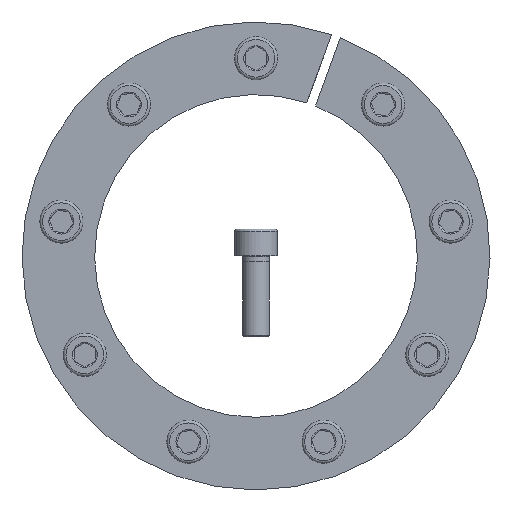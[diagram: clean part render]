
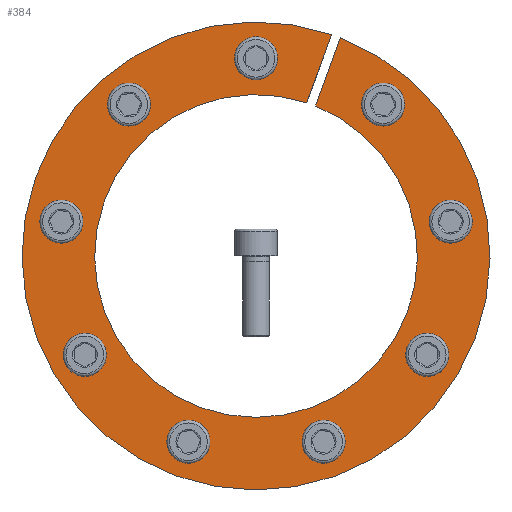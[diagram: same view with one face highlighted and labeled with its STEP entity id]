
A CAD part, front view. The second image highlights one B-rep face of the part: STEP entity #384.
In plain terms, the highlighted planar face has unit normal (0, -1, 0).
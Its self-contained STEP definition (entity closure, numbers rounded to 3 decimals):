
#384 = ADVANCED_FACE( '', ( #596, #597, #598, #599, #600, #601, #602, #603, #604, #605 ), #606, .F. );
#596 = FACE_BOUND( '', #770, .T. );
#597 = FACE_BOUND( '', #771, .T. );
#598 = FACE_BOUND( '', #772, .T. );
#599 = FACE_BOUND( '', #773, .T. );
#600 = FACE_BOUND( '', #774, .T. );
#601 = FACE_BOUND( '', #775, .T. );
#602 = FACE_BOUND( '', #776, .T. );
#603 = FACE_BOUND( '', #777, .T. );
#604 = FACE_BOUND( '', #778, .T. );
#605 = FACE_OUTER_BOUND( '', #779, .T. );
#606 = PLANE( '', #780 );
#770 = EDGE_LOOP( '', ( #983 ) );
#771 = EDGE_LOOP( '', ( #984 ) );
#772 = EDGE_LOOP( '', ( #985 ) );
#773 = EDGE_LOOP( '', ( #986 ) );
#774 = EDGE_LOOP( '', ( #987 ) );
#775 = EDGE_LOOP( '', ( #988 ) );
#776 = EDGE_LOOP( '', ( #989 ) );
#777 = EDGE_LOOP( '', ( #990 ) );
#778 = EDGE_LOOP( '', ( #991 ) );
#779 = EDGE_LOOP( '', ( #992, #993, #994, #995 ) );
#780 = AXIS2_PLACEMENT_3D( '', #996, #997, #998 );
#983 = ORIENTED_EDGE( '', *, *, #1339, .T. );
#984 = ORIENTED_EDGE( '', *, *, #1340, .T. );
#985 = ORIENTED_EDGE( '', *, *, #1341, .T. );
#986 = ORIENTED_EDGE( '', *, *, #1342, .T. );
#987 = ORIENTED_EDGE( '', *, *, #1343, .T. );
#988 = ORIENTED_EDGE( '', *, *, #1344, .T. );
#989 = ORIENTED_EDGE( '', *, *, #1345, .T. );
#990 = ORIENTED_EDGE( '', *, *, #1346, .T. );
#991 = ORIENTED_EDGE( '', *, *, #1347, .T. );
#992 = ORIENTED_EDGE( '', *, *, #1348, .T. );
#993 = ORIENTED_EDGE( '', *, *, #1349, .T. );
#994 = ORIENTED_EDGE( '', *, *, #1331, .T. );
#995 = ORIENTED_EDGE( '', *, *, #1350, .F. );
#996 = CARTESIAN_POINT( '', ( 0., 0., 87. ) );
#997 = DIRECTION( '', ( 0., 1., 0. ) );
#998 = DIRECTION( '', ( 0., 0., 1. ) );
#1331 = EDGE_CURVE( '', #1475, #1473, #1476, .T. );
#1339 = EDGE_CURVE( '', #1489, #1489, #1490, .T. );
#1340 = EDGE_CURVE( '', #1491, #1491, #1492, .T. );
#1341 = EDGE_CURVE( '', #1493, #1493, #1494, .T. );
#1342 = EDGE_CURVE( '', #1495, #1495, #1496, .T. );
#1343 = EDGE_CURVE( '', #1497, #1497, #1498, .T. );
#1344 = EDGE_CURVE( '', #1499, #1499, #1500, .T. );
#1345 = EDGE_CURVE( '', #1501, #1501, #1502, .T. );
#1346 = EDGE_CURVE( '', #1503, #1503, #1504, .T. );
#1347 = EDGE_CURVE( '', #1505, #1505, #1506, .T. );
#1348 = EDGE_CURVE( '', #1507, #1508, #1509, .T. );
#1349 = EDGE_CURVE( '', #1508, #1475, #1510, .T. );
#1350 = EDGE_CURVE( '', #1507, #1473, #1511, .T. );
#1473 = VERTEX_POINT( '', #1597 );
#1475 = VERTEX_POINT( '', #1600 );
#1476 = LINE( '', #1601, #1602 );
#1489 = VERTEX_POINT( '', #1626 );
#1490 = CIRCLE( '', #1627, 5. );
#1491 = VERTEX_POINT( '', #1628 );
#1492 = CIRCLE( '', #1629, 5. );
#1493 = VERTEX_POINT( '', #1630 );
#1494 = CIRCLE( '', #1631, 5. );
#1495 = VERTEX_POINT( '', #1632 );
#1496 = CIRCLE( '', #1633, 5. );
#1497 = VERTEX_POINT( '', #1634 );
#1498 = CIRCLE( '', #1635, 5. );
#1499 = VERTEX_POINT( '', #1636 );
#1500 = CIRCLE( '', #1637, 5. );
#1501 = VERTEX_POINT( '', #1638 );
#1502 = CIRCLE( '', #1639, 5. );
#1503 = VERTEX_POINT( '', #1640 );
#1504 = CIRCLE( '', #1641, 5. );
#1505 = VERTEX_POINT( '', #1642 );
#1506 = CIRCLE( '', #1643, 5. );
#1507 = VERTEX_POINT( '', #1644 );
#1508 = VERTEX_POINT( '', #1645 );
#1509 = LINE( '', #1646, #1647 );
#1510 = CIRCLE( '', #1648, 87. );
#1511 = CIRCLE( '', #1649, 60. );
#1597 = CARTESIAN_POINT( '', ( 22.157, 0., 55.759 ) );
#1600 = CARTESIAN_POINT( '', ( 31.394, 0., 81.138 ) );
#1601 = CARTESIAN_POINT( '', ( 31.4, 0., 81.155 ) );
#1602 = VECTOR( '', #1754, 1000. );
#1626 = CARTESIAN_POINT( '', ( -43.415, 0., 59.518 ) );
#1627 = AXIS2_PLACEMENT_3D( '', #1760, #1761, #1762 );
#1628 = CARTESIAN_POINT( '', ( -66.153, 0., -32.42 ) );
#1629 = AXIS2_PLACEMENT_3D( '', #1763, #1764, #1765 );
#1630 = CARTESIAN_POINT( '', ( 20.44, 0., -70.778 ) );
#1631 = AXIS2_PLACEMENT_3D( '', #1766, #1767, #1768 );
#1632 = CARTESIAN_POINT( '', ( 73.252, 0., 7.839 ) );
#1633 = AXIS2_PLACEMENT_3D( '', #1769, #1770, #1771 );
#1634 = CARTESIAN_POINT( '', ( 5., 0., 73.5 ) );
#1635 = AXIS2_PLACEMENT_3D( '', #1772, #1773, #1774 );
#1636 = CARTESIAN_POINT( '', ( 51.075, 0., 53.09 ) );
#1637 = AXIS2_PLACEMENT_3D( '', #1775, #1776, #1777 );
#1638 = CARTESIAN_POINT( '', ( 61.153, 0., -41.08 ) );
#1639 = AXIS2_PLACEMENT_3D( '', #1778, #1779, #1780 );
#1640 = CARTESIAN_POINT( '', ( -29.837, 0., -67.357 ) );
#1641 = AXIS2_PLACEMENT_3D( '', #1781, #1782, #1783 );
#1642 = CARTESIAN_POINT( '', ( -71.515, 0., 17.687 ) );
#1643 = AXIS2_PLACEMENT_3D( '', #1784, #1785, #1786 );
#1644 = CARTESIAN_POINT( '', ( 18.868, 0., 56.956 ) );
#1645 = CARTESIAN_POINT( '', ( 28.105, 0., 82.335 ) );
#1646 = CARTESIAN_POINT( '', ( 18.868, 0., 56.956 ) );
#1647 = VECTOR( '', #1787, 1000. );
#1648 = AXIS2_PLACEMENT_3D( '', #1788, #1789, #1790 );
#1649 = AXIS2_PLACEMENT_3D( '', #1791, #1792, #1793 );
#1754 = DIRECTION( '', ( -0.342, 0., -0.94 ) );
#1760 = CARTESIAN_POINT( '', ( -47.245, 0., 56.304 ) );
#1761 = DIRECTION( '', ( 0., 1., 0. ) );
#1762 = DIRECTION( '', ( 0.766, 0., 0.643 ) );
#1763 = CARTESIAN_POINT( '', ( -63.653, 0., -36.75 ) );
#1764 = DIRECTION( '', ( 0., 1., 0. ) );
#1765 = DIRECTION( '', ( -0.5, 0., 0.866 ) );
#1766 = CARTESIAN_POINT( '', ( 25.138, 0., -69.067 ) );
#1767 = DIRECTION( '', ( 0., 1., 0. ) );
#1768 = DIRECTION( '', ( -0.94, 0., -0.342 ) );
#1769 = CARTESIAN_POINT( '', ( 72.383, 0., 12.763 ) );
#1770 = DIRECTION( '', ( 0., 1., 0. ) );
#1771 = DIRECTION( '', ( 0.174, 0., -0.985 ) );
#1772 = CARTESIAN_POINT( '', ( 0., 0., 73.5 ) );
#1773 = DIRECTION( '', ( 0., 1., 0. ) );
#1774 = DIRECTION( '', ( 1., 0., 0. ) );
#1775 = CARTESIAN_POINT( '', ( 47.245, 0., 56.304 ) );
#1776 = DIRECTION( '', ( 0., 1., 0. ) );
#1777 = DIRECTION( '', ( 0.766, 0., -0.643 ) );
#1778 = CARTESIAN_POINT( '', ( 63.653, 0., -36.75 ) );
#1779 = DIRECTION( '', ( 0., 1., 0. ) );
#1780 = DIRECTION( '', ( -0.5, 0., -0.866 ) );
#1781 = CARTESIAN_POINT( '', ( -25.138, 0., -69.067 ) );
#1782 = DIRECTION( '', ( 0., 1., 0. ) );
#1783 = DIRECTION( '', ( -0.94, 0., 0.342 ) );
#1784 = CARTESIAN_POINT( '', ( -72.383, 0., 12.763 ) );
#1785 = DIRECTION( '', ( 0., 1., 0. ) );
#1786 = DIRECTION( '', ( 0.174, 0., 0.985 ) );
#1787 = DIRECTION( '', ( 0.342, 0., 0.94 ) );
#1788 = CARTESIAN_POINT( '', ( 0., 0., 0. ) );
#1789 = DIRECTION( '', ( 0., -1., 0. ) );
#1790 = DIRECTION( '', ( 0., 0., -1. ) );
#1791 = CARTESIAN_POINT( '', ( 0., 0., 0. ) );
#1792 = DIRECTION( '', ( 0., -1., 0. ) );
#1793 = DIRECTION( '', ( 0., 0., -1. ) );
